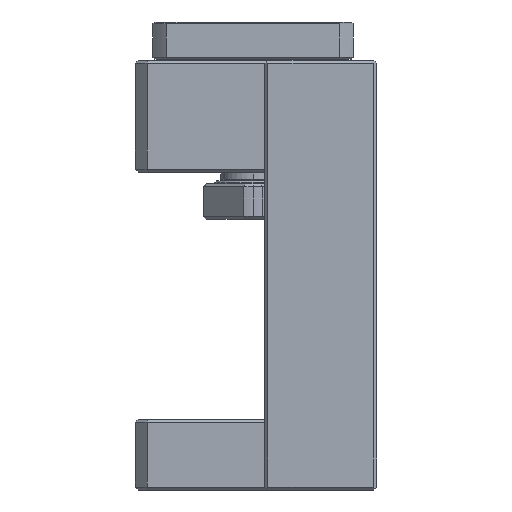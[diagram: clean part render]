
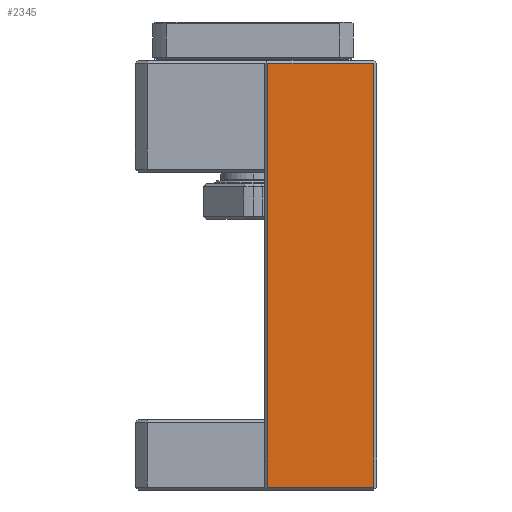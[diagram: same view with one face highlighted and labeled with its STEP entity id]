
A CAD part, left-side view. The second image highlights one B-rep face of the part: STEP entity #2345.
In plain terms, the highlighted planar face has unit normal (-1, 0, 0).
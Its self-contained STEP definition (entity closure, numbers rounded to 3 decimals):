
#2322 = ORIENTED_EDGE ( 'NONE', *, *, #2323, .T. ) ;
#2323 = EDGE_CURVE ( 'NONE', #2350, #2324, #12783, .T. ) ;
#2324 = VERTEX_POINT ( 'NONE', #12779 ) ;
#2325 = ORIENTED_EDGE ( 'NONE', *, *, #2326, .T. ) ;
#2326 = EDGE_CURVE ( 'NONE', #2324, #2327, #12778, .T. ) ;
#2327 = VERTEX_POINT ( 'NONE', #12838 ) ;
#2328 = ORIENTED_EDGE ( 'NONE', *, *, #2329, .T. ) ;
#2329 = EDGE_CURVE ( 'NONE', #2327, #2349, #12837, .T. ) ;
#2345 = ADVANCED_FACE ( 'NONE', ( #12874 ), #12873, .T. ) ;
#2346 = EDGE_LOOP ( 'NONE', ( #2347, #2322, #2325, #2328 ) ) ;
#2347 = ORIENTED_EDGE ( 'NONE', *, *, #2348, .T. ) ;
#2348 = EDGE_CURVE ( 'NONE', #2349, #2350, #12868, .T. ) ;
#2349 = VERTEX_POINT ( 'NONE', #12864 ) ;
#2350 = VERTEX_POINT ( 'NONE', #12863 ) ;
#12776 = VECTOR ( 'NONE', #12839, 1000. ) ;
#12777 = CARTESIAN_POINT ( 'NONE',  ( 0., 19., -0.5 ) ) ;
#12778 = LINE ( 'NONE', #12777, #12776 ) ;
#12779 = CARTESIAN_POINT ( 'NONE',  ( 0., 0.5, -0.5 ) ) ;
#12780 = DIRECTION ( 'NONE',  ( 0., 0., 1. ) ) ;
#12781 = VECTOR ( 'NONE', #12780, 1000. ) ;
#12782 = CARTESIAN_POINT ( 'NONE',  ( 0., 0.5, -73. ) ) ;
#12783 = LINE ( 'NONE', #12782, #12781 ) ;
#12834 = DIRECTION ( 'NONE',  ( 0., 0., -1. ) ) ;
#12835 = VECTOR ( 'NONE', #12834, 1000. ) ;
#12836 = CARTESIAN_POINT ( 'NONE',  ( 0., 18.5, -73. ) ) ;
#12837 = LINE ( 'NONE', #12836, #12835 ) ;
#12838 = CARTESIAN_POINT ( 'NONE',  ( 0., 18.5, -0.5 ) ) ;
#12839 = DIRECTION ( 'NONE',  ( 0., 1., 0. ) ) ;
#12863 = CARTESIAN_POINT ( 'NONE',  ( 0., 0.5, -72.5 ) ) ;
#12864 = CARTESIAN_POINT ( 'NONE',  ( 0., 18.5, -72.5 ) ) ;
#12865 = DIRECTION ( 'NONE',  ( 0., -1., 0. ) ) ;
#12866 = VECTOR ( 'NONE', #12865, 1000. ) ;
#12867 = CARTESIAN_POINT ( 'NONE',  ( 0., 0., -72.5 ) ) ;
#12868 = LINE ( 'NONE', #12867, #12866 ) ;
#12869 = DIRECTION ( 'NONE',  ( 0., -1., 0. ) ) ;
#12870 = DIRECTION ( 'NONE',  ( -1., 0., 0. ) ) ;
#12871 = CARTESIAN_POINT ( 'NONE',  ( 0., 19., -73. ) ) ;
#12872 = AXIS2_PLACEMENT_3D ( 'NONE', #12871, #12870, #12869 ) ;
#12873 = PLANE ( 'NONE',  #12872 ) ;
#12874 = FACE_OUTER_BOUND ( 'NONE', #2346, .T. ) ;
